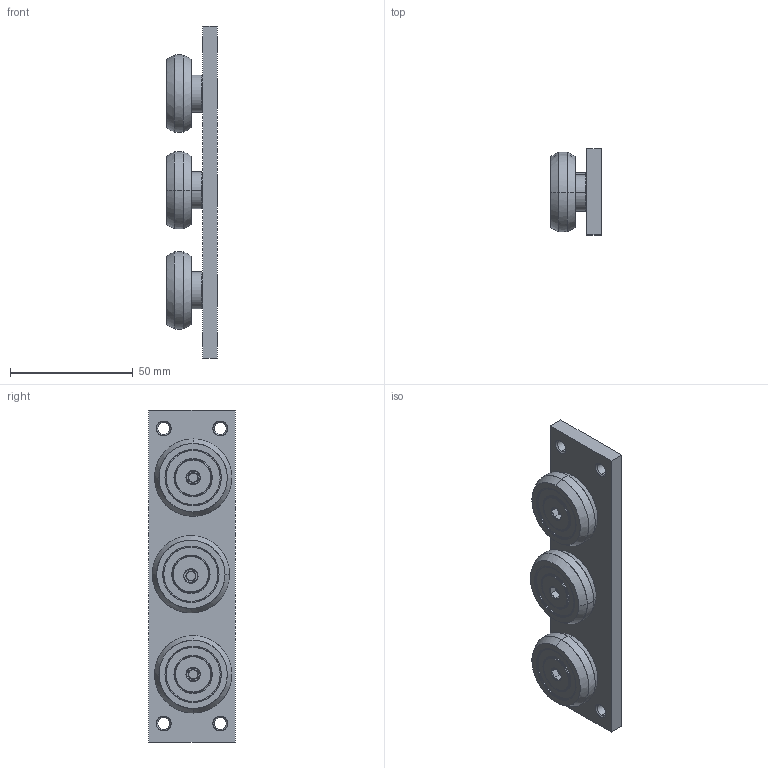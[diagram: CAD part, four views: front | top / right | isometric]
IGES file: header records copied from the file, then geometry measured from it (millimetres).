
Start section: SolidWorks IGES file using analytic representation for surfaces
Global section: file name: C:\Users\ianosborn\Desktop\L1971_v2\L1971.SBU_v2\L1971.SBU_v2_20260120_IGES\L1971.40U-135.igs; native system: SolidWorks 2019; preprocessor: SolidWorks 2019; author: IanOsborn; date: 260121.122912; units: millimetre
Bounding box: 20.65 x 35 x 135 mm (x, y, z)
Surface area: 21934.6 mm2 (no closed solid volume)
Topology: 0 solids, 0 shells, 348 faces, 5034 edges, 5030 vertices
Faces by surface type: revolution 226, bspline 122
